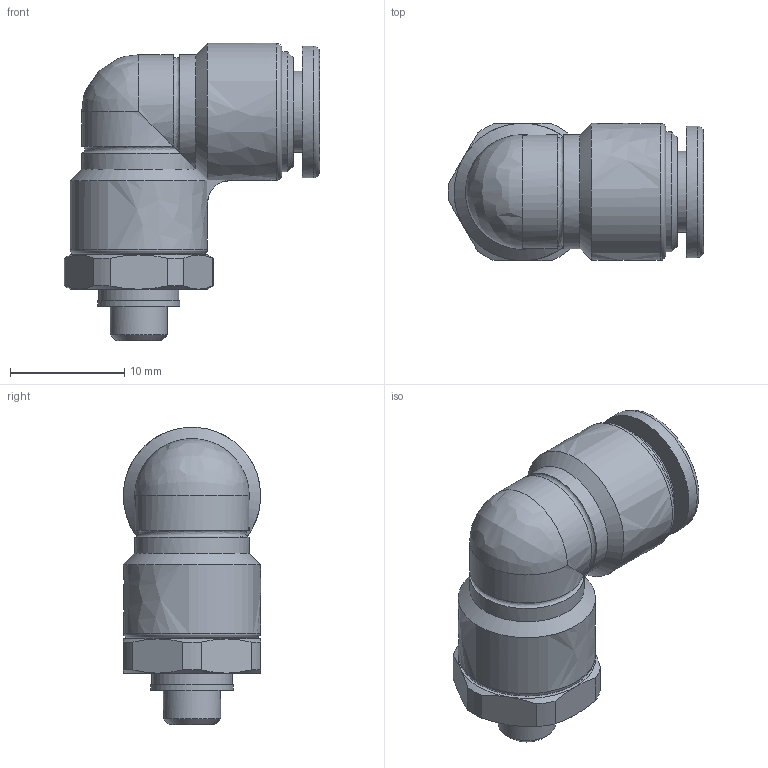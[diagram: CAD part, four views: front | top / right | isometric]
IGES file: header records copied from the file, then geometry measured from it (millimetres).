
Global section: file name: [04] FS6-M5ML FS6-M5MLW; native system: Autodesk Inventor 2014; preprocessor: unknown; author: kazuhiro.t; date: 20130806.165026; units: millimetre
Bounding box: 22.3 x 12 x 25.99 mm (x, y, z)
Volume: 2802.3 mm3; surface area: 1801.1 mm2
Topology: 1 solids, 1 shells, 64 faces, 143 edges, 87 vertices
Faces by surface type: bspline 64
